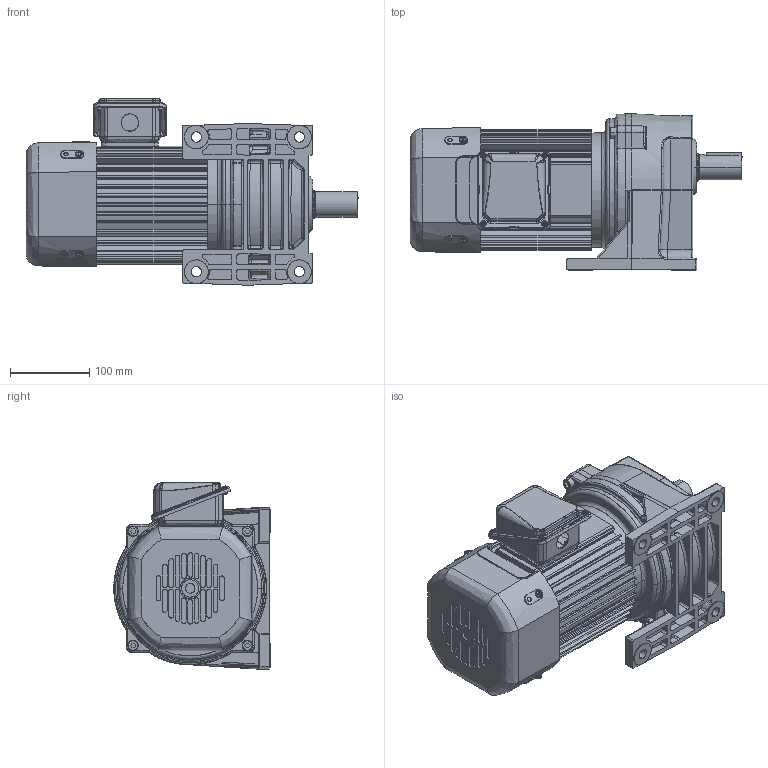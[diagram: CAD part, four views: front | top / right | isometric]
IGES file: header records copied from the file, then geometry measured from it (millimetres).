
Start section: SolidWorks IGES file using analytic representation for surfaces
Global section: file name: \\100.100.100.8\1_共有作業フォルダ\1-5_３Ｄデータ\solidworks\personal-folder\H.Nagayama\SGP1外形075~370\P1(3D)_075~370\igs\TMLB2-07-(30~80).IGS; native system: SolidWorks 2018; preprocessor: SolidWorks 2018; author: sigma-giken; date: 200807.144216; units: millimetre
Bounding box: 419 x 197.5 x 235.2 mm (x, y, z)
Surface area: 593507.2 mm2 (no closed solid volume)
Topology: 0 solids, 0 shells, 1726 faces, 20749 edges, 20719 vertices
Faces by surface type: bspline 872, revolution 854
